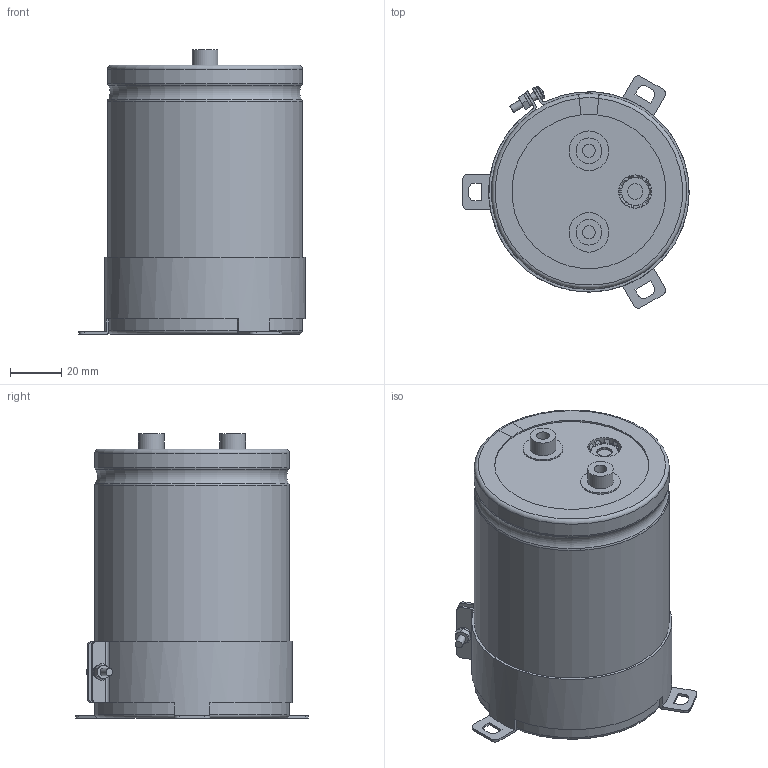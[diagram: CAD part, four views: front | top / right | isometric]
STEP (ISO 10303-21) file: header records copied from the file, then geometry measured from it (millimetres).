
FILE_DESCRIPTION(/* description */ (''),/* implementation_level */ '2;1');
FILE_NAME(/* name */ '76.2x105_Screw.stp',/* time_stamp */ '2017-09-17T13:22:31+09:00',/* author */ (''),/* organization */ (''),/* preprocessor_version */ 'ST-DEVELOPER v16',/* originating_system */ 'SIEMENS PLM Software NX 11.0',/* authorisation */ '');
FILE_SCHEMA (('AUTOMOTIVE_DESIGN { 1 0 10303 214 3 1 1 1 }'));
Length unit declared in the file: millimetre
Products named in the file (1): 76.2x105_Screw
Bounding box: 88.3 x 90.75 x 111 mm (x, y, z)
Volume: 481225.2 mm3; surface area: 105568.2 mm2
Topology: 9 solids, 9 shells, 259 faces, 642 edges, 413 vertices
Faces by surface type: plane 112, cylinder 66, torus 49, cone 31, sphere 1
Full cylindrical faces by diameter (mm): 3 x5, 5 x2, 5.5 x2, 6 x4, 8 x1, 10 x2, 13 x2, 15.5 x2, 75 x2
Entity records: 8534 total; most frequent: CARTESIAN_POINT 2182, DIRECTION 1296, ORIENTED_EDGE 1214, EDGE_CURVE 607, AXIS2_PLACEMENT_3D 541, VERTEX_POINT 408, EDGE_LOOP 317, CIRCLE 281
